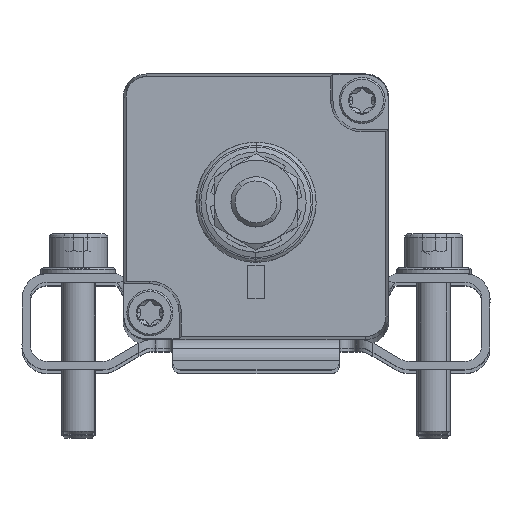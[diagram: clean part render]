
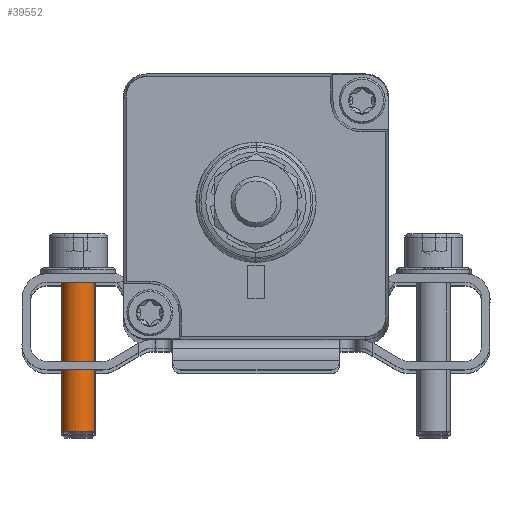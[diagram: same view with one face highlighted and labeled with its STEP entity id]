
A CAD part, top view. The second image highlights one B-rep face of the part: STEP entity #39552.
In plain terms, the highlighted cylindrical face has radius 2 mm (diameter 4 mm), a partial arc.
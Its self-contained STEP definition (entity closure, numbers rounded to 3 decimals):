
#5661 = CARTESIAN_POINT ( 'NONE',  ( -23.216, -7.178, 116.619 ) ) ;
#5813 = DIRECTION ( 'NONE',  ( 0., -1., 0. ) ) ;
#5814 = VECTOR ( 'NONE', #5813, 1000. ) ;
#5815 = CARTESIAN_POINT ( 'NONE',  ( -23.216, -7.178, 116.619 ) ) ;
#5816 = LINE ( 'NONE', #5815, #5814 ) ;
#5821 = CARTESIAN_POINT ( 'NONE',  ( -23.216, -26.628, 116.619 ) ) ;
#5841 = DIRECTION ( 'NONE',  ( -0.983, 0., 0.184 ) ) ;
#5842 = DIRECTION ( 'NONE',  ( 0., -1., 0. ) ) ;
#5843 = CARTESIAN_POINT ( 'NONE',  ( -21.25, -26.628, 116.25 ) ) ;
#5844 = AXIS2_PLACEMENT_3D ( 'NONE', #5843, #5842, #5841 ) ;
#5845 = CIRCLE ( 'NONE', #5844, 2. ) ;
#5847 = CARTESIAN_POINT ( 'NONE',  ( -20.881, -26.628, 118.216 ) ) ;
#5868 = CARTESIAN_POINT ( 'NONE',  ( -19.284, -26.628, 115.881 ) ) ;
#5869 = DIRECTION ( 'NONE',  ( 0., -1., 0. ) ) ;
#5870 = VECTOR ( 'NONE', #5869, 1000. ) ;
#5871 = CARTESIAN_POINT ( 'NONE',  ( -19.284, -7.178, 115.881 ) ) ;
#5872 = LINE ( 'NONE', #5871, #5870 ) ;
#5938 = CARTESIAN_POINT ( 'NONE',  ( -19.284, -7.178, 115.881 ) ) ;
#5939 = DIRECTION ( 'NONE',  ( -0.983, 0., 0.184 ) ) ;
#5940 = DIRECTION ( 'NONE',  ( 0., -1., 0. ) ) ;
#5941 = CARTESIAN_POINT ( 'NONE',  ( -21.25, -7.178, 116.25 ) ) ;
#5942 = AXIS2_PLACEMENT_3D ( 'NONE', #5941, #5940, #5939 ) ;
#5945 = CIRCLE ( 'NONE', #5942, 2. ) ;
#5976 = CYLINDRICAL_SURFACE ( 'NONE', #6028, 2. ) ;
#5977 = CARTESIAN_POINT ( 'NONE',  ( -21.25, -7.178, 116.25 ) ) ;
#5992 = FACE_OUTER_BOUND ( 'NONE', #39553, .T. ) ;
#5993 = DIRECTION ( 'NONE',  ( -0.983, 0., 0.184 ) ) ;
#5994 = DIRECTION ( 'NONE',  ( 0., -1., 0. ) ) ;
#5995 = CARTESIAN_POINT ( 'NONE',  ( -21.25, -26.628, 116.25 ) ) ;
#5996 = AXIS2_PLACEMENT_3D ( 'NONE', #5995, #5994, #5993 ) ;
#5997 = CIRCLE ( 'NONE', #5996, 2. ) ;
#6026 = DIRECTION ( 'NONE',  ( -0.983, 0., 0.184 ) ) ;
#6027 = DIRECTION ( 'NONE',  ( 0., -1., 0. ) ) ;
#6028 = AXIS2_PLACEMENT_3D ( 'NONE', #5977, #6027, #6026 ) ;
#39370 = VERTEX_POINT ( 'NONE', #5661 ) ;
#39461 = VERTEX_POINT ( 'NONE', #5821 ) ;
#39464 = EDGE_CURVE ( 'NONE', #39370, #39461, #5816, .T. ) ;
#39480 = VERTEX_POINT ( 'NONE', #5847 ) ;
#39482 = EDGE_CURVE ( 'NONE', #39480, #39461, #5845, .T. ) ;
#39496 = EDGE_CURVE ( 'NONE', #39513, #39497, #5872, .T. ) ;
#39497 = VERTEX_POINT ( 'NONE', #5868 ) ;
#39512 = EDGE_CURVE ( 'NONE', #39513, #39370, #5945, .T. ) ;
#39513 = VERTEX_POINT ( 'NONE', #5938 ) ;
#39550 = EDGE_CURVE ( 'NONE', #39497, #39480, #5997, .T. ) ;
#39552 = ADVANCED_FACE ( 'NONE', ( #5992 ), #5976, .T. ) ;
#39553 = EDGE_LOOP ( 'NONE', ( #39554, #39555, #39557, #39559, #39561 ) ) ;
#39554 = ORIENTED_EDGE ( 'NONE', *, *, #39496, .F. ) ;
#39555 = ORIENTED_EDGE ( 'NONE', *, *, #39512, .T. ) ;
#39557 = ORIENTED_EDGE ( 'NONE', *, *, #39464, .T. ) ;
#39559 = ORIENTED_EDGE ( 'NONE', *, *, #39482, .F. ) ;
#39561 = ORIENTED_EDGE ( 'NONE', *, *, #39550, .F. ) ;
